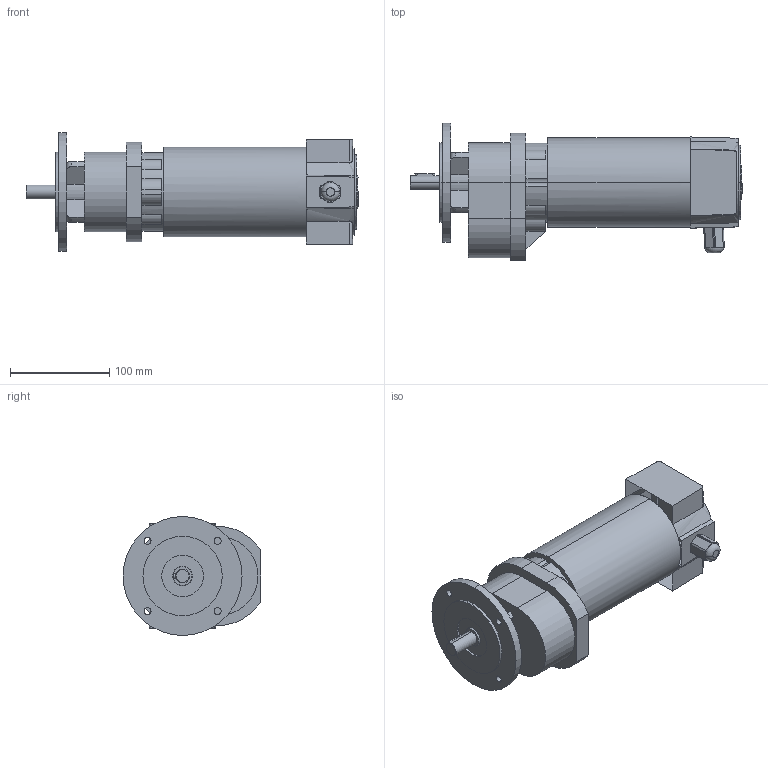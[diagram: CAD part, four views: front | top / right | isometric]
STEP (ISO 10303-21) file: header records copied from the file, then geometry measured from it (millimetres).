
FILE_DESCRIPTION(('OneSpaceDesigner STEP Export'),'2;1');
FILE_NAME('EPG23_SF30.stp','2008-07-17T10:26:10',(''),(''),'OneSpace Designer STEP processor (Jan. 2003) for AP214(CD)(Solid Model)','OneSpace Designer 12.01D 09-Jul-2004 (C) CoCreate Software GmbH','');
FILE_SCHEMA(('AUTOMOTIVE_DESIGN_CC2 {1 2 10303 214 -1 1 5 1}'));
Length unit declared in the file: millimetre
Products named in the file (2): EPG23_SF30
Assembly tree (1 placements, depth 2):
  EPG23_SF30
    EPG23_SF30
Bounding box: 335 x 139 x 120 mm (x, y, z)
Volume: 2095068.9 mm3; surface area: 142910.7 mm2
Topology: 1 solids, 1 shells, 134 faces, 351 edges, 233 vertices
Faces by surface type: cylinder 61, plane 61, torus 6, cone 4, bspline 2
Entity records: 6705 total; most frequent: CARTESIAN_POINT 3534, ORIENTED_EDGE 702, DIRECTION 580, EDGE_CURVE 351, VERTEX_POINT 233, AXIS2_PLACEMENT_3D 203, VECTOR 174, LINE 174
